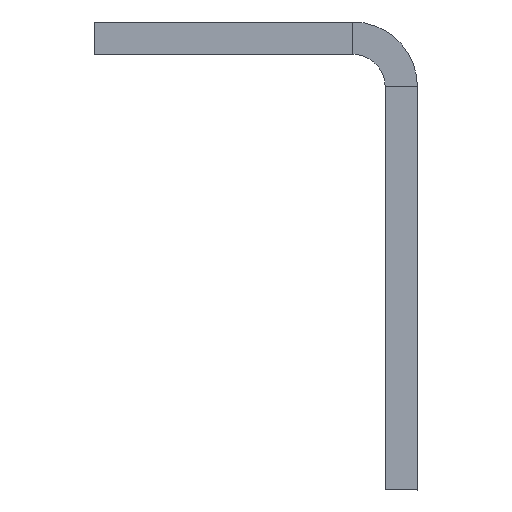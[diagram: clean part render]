
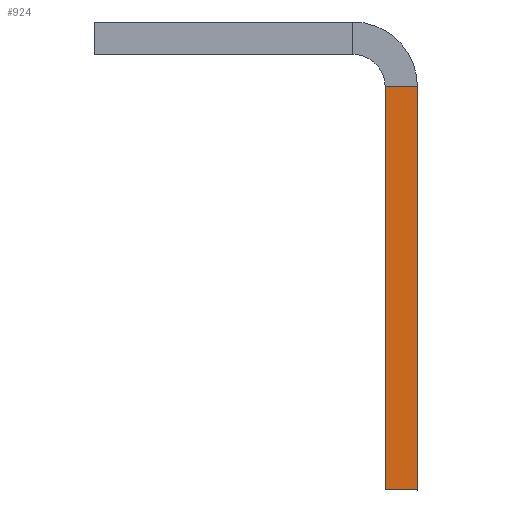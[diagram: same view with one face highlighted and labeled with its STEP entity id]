
A CAD part, left-side view. The second image highlights one B-rep face of the part: STEP entity #924.
In plain terms, the highlighted planar face has unit normal (-1, 0, 0).
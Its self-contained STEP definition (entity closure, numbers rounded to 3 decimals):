
#21 = VECTOR ( 'NONE', #1148, 1000. ) ;
#25 = VECTOR ( 'NONE', #1306, 1000. ) ;
#103 = VECTOR ( 'NONE', #218, 1000. ) ;
#113 = DIRECTION ( 'NONE',  ( -1., 0., 0. ) ) ;
#134 = VERTEX_POINT ( 'NONE', #1059 ) ;
#170 = LINE ( 'NONE', #635, #554 ) ;
#218 = DIRECTION ( 'NONE',  ( 0., 0., -1. ) ) ;
#245 = CARTESIAN_POINT ( 'NONE',  ( -278.5, 0., 0. ) ) ;
#543 = EDGE_CURVE ( 'NONE', #1562, #134, #170, .T. ) ;
#554 = VECTOR ( 'NONE', #669, 1000. ) ;
#585 = ORIENTED_EDGE ( 'NONE', *, *, #772, .F. ) ;
#601 = EDGE_LOOP ( 'NONE', ( #585, #1125, #985, #980 ) ) ;
#633 = CARTESIAN_POINT ( 'NONE',  ( -278.5, 2., -29. ) ) ;
#635 = CARTESIAN_POINT ( 'NONE',  ( -278.5, 0., -4. ) ) ;
#658 = DIRECTION ( 'NONE',  ( 0., 0., 1. ) ) ;
#669 = DIRECTION ( 'NONE',  ( 0., 1., 0. ) ) ;
#772 = EDGE_CURVE ( 'NONE', #1562, #996, #899, .T. ) ;
#818 = CARTESIAN_POINT ( 'NONE',  ( -278.5, 0., -4. ) ) ;
#850 = LINE ( 'NONE', #1682, #103 ) ;
#899 = LINE ( 'NONE', #245, #21 ) ;
#924 = ADVANCED_FACE ( 'NONE', ( #1251 ), #1538, .T. ) ;
#980 = ORIENTED_EDGE ( 'NONE', *, *, #1222, .T. ) ;
#985 = ORIENTED_EDGE ( 'NONE', *, *, #1041, .T. ) ;
#996 = VERTEX_POINT ( 'NONE', #1594 ) ;
#1041 = EDGE_CURVE ( 'NONE', #134, #1334, #850, .T. ) ;
#1059 = CARTESIAN_POINT ( 'NONE',  ( -278.5, 2., -4. ) ) ;
#1096 = CARTESIAN_POINT ( 'NONE',  ( -278.5, 2., -29. ) ) ;
#1125 = ORIENTED_EDGE ( 'NONE', *, *, #543, .T. ) ;
#1148 = DIRECTION ( 'NONE',  ( 0., 0., -1. ) ) ;
#1222 = EDGE_CURVE ( 'NONE', #1334, #996, #1575, .T. ) ;
#1251 = FACE_OUTER_BOUND ( 'NONE', #601, .T. ) ;
#1306 = DIRECTION ( 'NONE',  ( 0., -1., 0. ) ) ;
#1308 = CARTESIAN_POINT ( 'NONE',  ( -278.5, 4., -2. ) ) ;
#1334 = VERTEX_POINT ( 'NONE', #1096 ) ;
#1538 = PLANE ( 'NONE',  #1560 ) ;
#1560 = AXIS2_PLACEMENT_3D ( 'NONE', #1308, #113, #658 ) ;
#1562 = VERTEX_POINT ( 'NONE', #818 ) ;
#1575 = LINE ( 'NONE', #633, #25 ) ;
#1594 = CARTESIAN_POINT ( 'NONE',  ( -278.5, 0., -29. ) ) ;
#1682 = CARTESIAN_POINT ( 'NONE',  ( -278.5, 2., 0. ) ) ;
